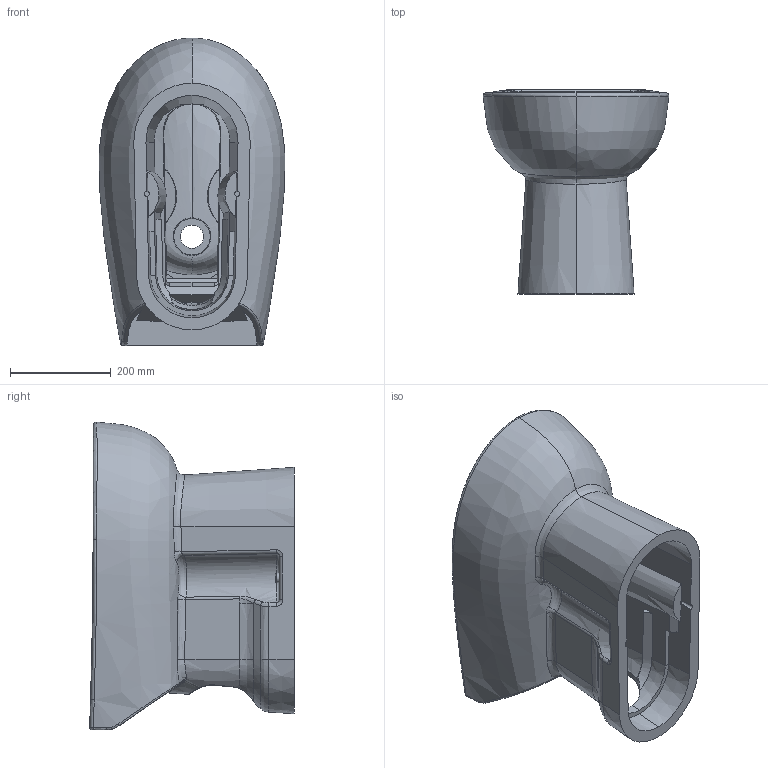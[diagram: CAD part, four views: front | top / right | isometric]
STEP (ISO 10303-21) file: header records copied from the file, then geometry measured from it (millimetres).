
FILE_DESCRIPTION (( 'STEP AP203' ), '1' );
FILE_NAME ('SD500-00CB00E-0000.STEP', '2022-04-26T08:37:43', ( '' ), ( '' ), 'SwSTEP 2.0', 'SolidWorks 2021', '' );
FILE_SCHEMA (( 'CONFIG_CONTROL_DESIGN' ));
Length unit declared in the file: millimetre
Products named in the file (1): SD500-00CB00E-0000
Bounding box: 369.24 x 406.84 x 611.86 mm (x, y, z)
Volume: 10855611.7 mm3; surface area: 1708528.6 mm2
Topology: 4 solids, 4 shells, 327 faces, 882 edges, 552 vertices
Faces by surface type: bspline 144, plane 108, cylinder 44, cone 27, torus 4
Entity records: 140414 total; most frequent: CARTESIAN_POINT 133528, ORIENTED_EDGE 1756, DIRECTION 921, EDGE_CURVE 878, VERTEX_POINT 552, B_SPLINE_CURVE_WITH_KNOTS 472, AXIS2_PLACEMENT_3D 346, EDGE_LOOP 340
